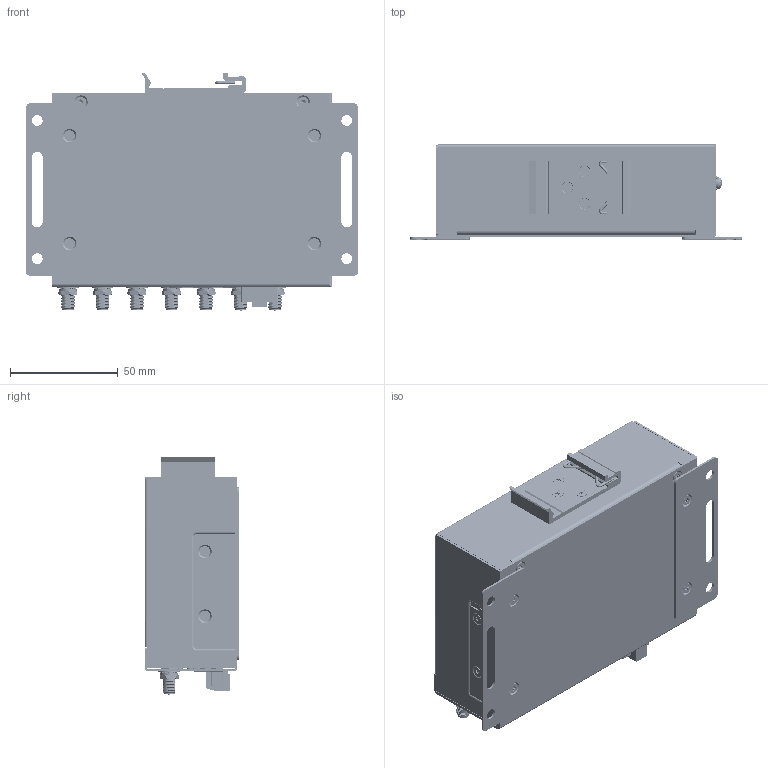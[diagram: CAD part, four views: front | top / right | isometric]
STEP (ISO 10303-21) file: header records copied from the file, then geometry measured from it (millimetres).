
FILE_DESCRIPTION (( 'STEP AP214' ), '1' );
FILE_NAME ('ICR-4172W.STEP', '2025-11-19T11:52:35', ( '' ), ( '' ), 'SwSTEP 2.0', 'SolidWorks 2024', '' );
FILE_SCHEMA (( 'AUTOMOTIVE_DESIGN' ));
Length unit declared in the file: millimetre
Products named in the file (52): RJ45_2x_Connector; CON_WR2; Label_41W2C4G1; USB_3_0_type_A; 21BB-CLK3-000001; Bottom_Base_for_ICR-4(1,2)xx; SCR_ZC_M3_L6_PH_PW_2; ANT_PG_L200_R-SMA_UFL; POST_D6xL4; WPEQ-268AXI; PCI_Female_Connector_52P; WAS_ZC_2_SR; ANT_PG_L150_SMA_I; Battery_SMT_holder_Keystone-PN3000; V4I_ICR-41(2)XX_FIL_CDB; ThermalTape; Micro_SD_card_holder_part_2; POST_D4,5xL5; SCR_ZC_M3_L6_PH_PW; SCR_ZC_M3_L10_PH_PW; CDS_M_H5_W7,3_CHM3; PAD_TH_W28_L14_H2,5; Micro_SD_card_holder_part_1; Pin_header_6x2P; ICR-4172W; PCB_ICR-4(1,2)xx; Tact_Switch_right_angle; SCR_ZC_M2_L5_PH_P_M2x5; Lightpipe_4P; ChassisTop; SIM_holder; Radial_THT_Capacitor; Thermal_pad_46x30; PCI_Female_Connector_67P; MOD_FN990A28-HP; B-ICR41(2)xx-4_B-ICR41xxLS-4; Micro_SD_card_holder; Chassis_package-ICR-4(1,2)xx; Case_for_ICR-4(1,2)xx; DIN_25_AL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
Assembly tree (73 placements, depth 5):
  21BB-CLK3-000001
  V4I_ICR-41(2)XX_FIL_CDB
  ICR-4172W
    Chassis_package-ICR-4(1,2)xx
      Case_for_ICR-4(1,2)xx
        Bottom_Base_for_ICR-4(1,2)xx
          ChassisBottom
          CDS_M_H5_W7,3_CHM3  x4
        ChassisTop
      ChassisSimCover
      ThermalTape
      AlluminiumCooler
      chassisWallMount  x2
    B-ICR41(2)xx-4_B-ICR41xxLS-4
      PCB_ICR-4(1,2)xx
      PCI_Female_Connector_52P
      POST_D4,5xL5
      Battery_SMT_holder_Keystone-PN3000
      Lightpipe_4P  x2
      RJ45_2x_Connector
      USB_3_0_type_A
      POST_D6xL4
      PCI_Female_Connector_67P
      SIM_holder  x2
      Tact_Switch_right_angle
      Radial_THT_Capacitor
      Pluggable_Term_Blk_2P
      Micro_SD_card_holder
        Micro_SD_card_holder_part_1
        Micro_SD_card_holder_part_2
      Dip_Switch_2_positon
      Pin_header_6x2P
    WPEQ-268AXI
    MOD_FN990A28-HP
    BAT_CR1225
    Thermal_pad_46x30
    PAD_TH_W28_L14_H2,5  x2
    Label_41W2C4G1
    Label_SIM_SD_IO_configuration_SIM
    ANT_PG_L200_R-SMA_UFL  x2
    ANT_PG_L150_SMA_I  x5
    CON_WR2
    DIN_clip_set_ICR_series
      DIN_25_AL
      SCR_BK_M3_L5_PH_FL_TW_GLUE  x3
    SCR_ZC_M3_L6_PH_PW  x3
    SCR_ZC_M3_L10_PH_PW
    WAS_ZC_2_SR
    SCR_ZC_M2_L5_PH_P_M2x5
    SCR_BK_M3_L4_TX8_FL_SCR  x4
    SCR_BK_M3_L5_PH_FL_TW  x6
    SCR_ZC_M3_L6_PH_PW_2
Bounding box: 153.9 x 44 x 110.72 mm (x, y, z)
Volume: 99247.9 mm3; surface area: 206149.4 mm2
Topology: 182 solids, 249 shells, 16226 faces, 44504 edges, 29227 vertices
Faces by surface type: plane 9062, bspline 3409, cylinder 3141, cone 451, torus 127, sphere 36
Entity records: 542999 total; most frequent: CARTESIAN_POINT 164830, ORIENTED_EDGE 74750, DIRECTION 56558, EDGE_CURVE 37572, VERTEX_POINT 24621, VECTOR 23972, LINE 23972, AXIS2_PLACEMENT_3D 16293
